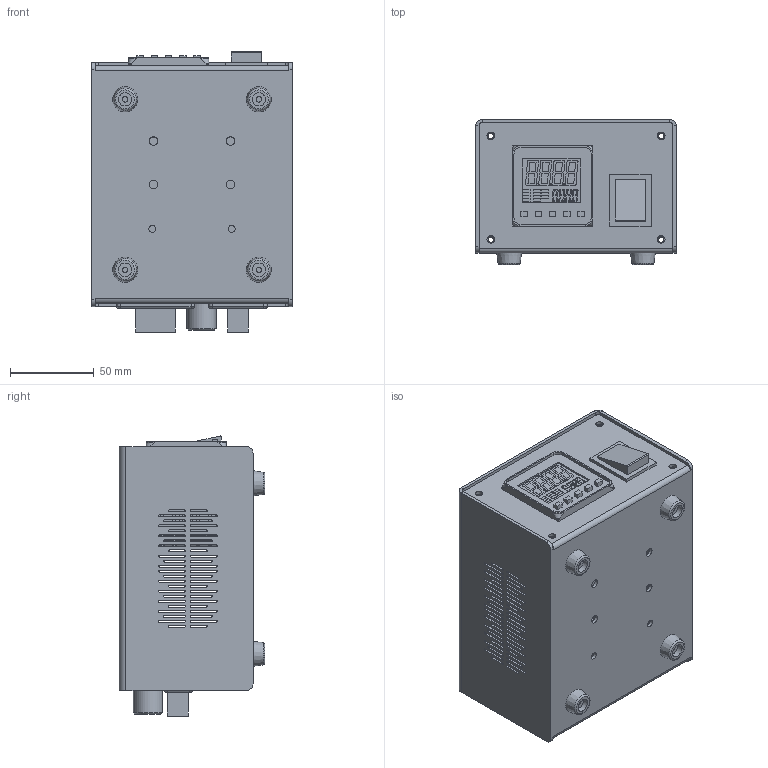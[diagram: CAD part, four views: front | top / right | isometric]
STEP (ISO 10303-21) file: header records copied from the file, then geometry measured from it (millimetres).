
FILE_DESCRIPTION(/* description */ (''),/* implementation_level */ '2;1');
FILE_NAME(/* name */ 'GTC-001.stp',/* time_stamp */ '2022-06-28T10:19:09+08:00',/* author */ (''),/* organization */ (''),/* preprocessor_version */ 'ST-DEVELOPER v16',/* originating_system */ 'SIEMENS PLM Software NX 10.0',/* authorisation */ '');
FILE_SCHEMA (('AUTOMOTIVE_DESIGN { 1 0 10303 214 3 1 1 1 }'));
Products named in the file (1): Admi2408D5D05y6v
Bounding box: 120 x 87 x 167.68 mm (x, y, z)
Volume: 306461.1 mm3; surface area: 184982.3 mm2
Topology: 1 solids, 1 shells, 2139 faces, 5618 edges, 3717 vertices
Faces by surface type: plane 1715, cylinder 403, bspline 12, cone 5, torus 4
Full cylindrical faces by diameter (mm): 1.3 x6, 2.6 x5, 2.8 x4, 3 x30, 3.25 x4, 3.3 x12, 3.4 x4, 4.2 x2, 4.5 x8, 5 x4, 5.6 x18, 5.65 x4, 8 x4, 10 x1, 17.5 x1
Entity records: 80123 total; most frequent: CARTESIAN_POINT 11509, ORIENTED_EDGE 10964, DIRECTION 10585, EDGE_CURVE 5482, LINE 4623, VECTOR 4623, VERTEX_POINT 3697, AXIS2_PLACEMENT_3D 2981
